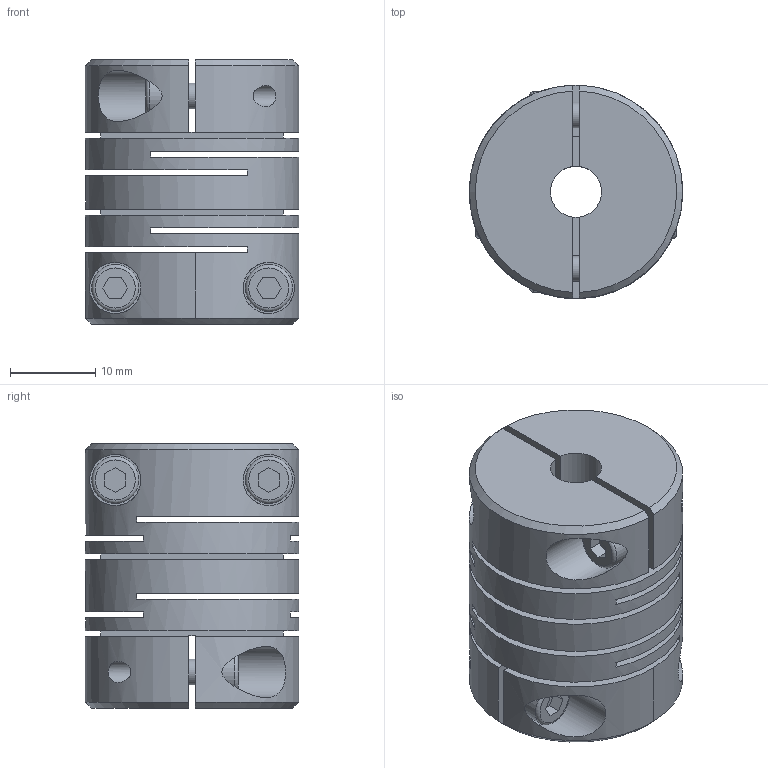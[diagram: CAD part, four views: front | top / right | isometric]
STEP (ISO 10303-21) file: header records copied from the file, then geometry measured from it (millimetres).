
FILE_DESCRIPTION (( 'STEP AP214' ), '1' );
FILE_NAME ('2246-25-B6-8-NI.step', '2022-05-27T09:30:58', ( '' ), ( '' ), 'SwSTEP 2.0', 'SolidWorks 2019', '' );
FILE_SCHEMA (( 'AUTOMOTIVE_DESIGN' ));
Length unit declared in the file: millimetre
Products named in the file (1): 2246-25-B6-8-NI
Bounding box: 25 x 24.99 x 31 mm (x, y, z)
Volume: 11672.9 mm3; surface area: 9573.3 mm2
Topology: 1 solids, 1 shells, 123 faces, 308 edges, 208 vertices
Faces by surface type: plane 79, cylinder 32, cone 8, torus 4
Full cylindrical faces by diameter (mm): 2.5 x4, 3 x4, 3.3 x4, 5.5 x4, 6 x7, 8 x3, 25 x1
Entity records: 4300 total; most frequent: CARTESIAN_POINT 975, DIRECTION 552, ORIENTED_EDGE 476, EDGE_CURVE 238, AXIS2_PLACEMENT_3D 207, EDGE_LOOP 200, VERTEX_POINT 178, FACE_OUTER_BOUND 153
